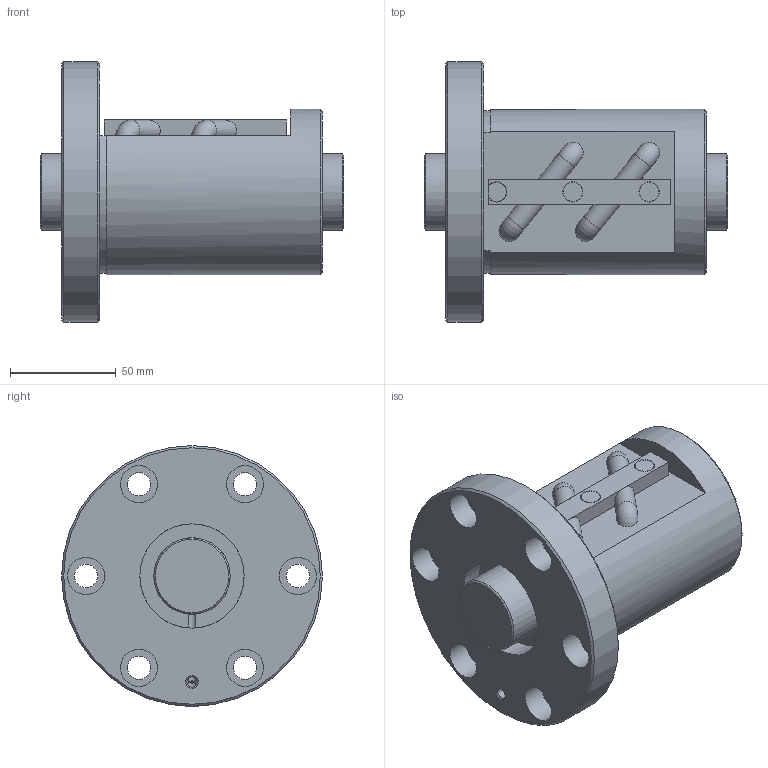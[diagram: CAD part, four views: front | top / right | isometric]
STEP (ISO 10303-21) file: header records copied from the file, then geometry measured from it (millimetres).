
FILE_DESCRIPTION(/* description */ ('STEP AP203'),/* implementation_level */ '2;1');
FILE_NAME(/* name */ 'BIF3612V-5RRG0+143LC0_000',/* time_stamp */ '2024-07-15T08:23:53+02:00',/* author */ ('License CC BY-ND 4.0'),/* organization */ ('CADENAS'),/* preprocessor_version */ 'ST-DEVELOPER v19.3',/* originating_system */ 'PARTsolutions',/* authorisation */ ' ');
FILE_SCHEMA (('CONFIG_CONTROL_DESIGN'));
Length unit declared in the file: millimetre
Products named in the file (3): BIF3612V-5RRG0+143LC0_000; BIF3612V-5RR000 Shaft; BIF3612V-5RR Nut
Assembly tree (2 placements, depth 2):
  BIF3612V-5RRG0+143LC0_000
    BIF3612V-5RR000 Shaft
    BIF3612V-5RR Nut
Bounding box: 143 x 123 x 123 mm (x, y, z)
Volume: 663808.7 mm3; surface area: 94509.6 mm2
Topology: 2 solids, 2 shells, 88 faces, 201 edges, 129 vertices
Faces by surface type: plane 43, cylinder 32, cone 9, torus 4
Full cylindrical faces by diameter (mm): 4.25 x2, 4.917 x1, 9 x2, 9.6 x2, 11 x6, 17.5 x6, 36 x2, 49.2 x2, 78 x1, 123 x1
Entity records: 2448 total; most frequent: CARTESIAN_POINT 499, DIRECTION 418, ORIENTED_EDGE 312, AXIS2_PLACEMENT_3D 183, EDGE_CURVE 156, FACE_BOUND 151, EDGE_LOOP 150, VERTEX_POINT 119
